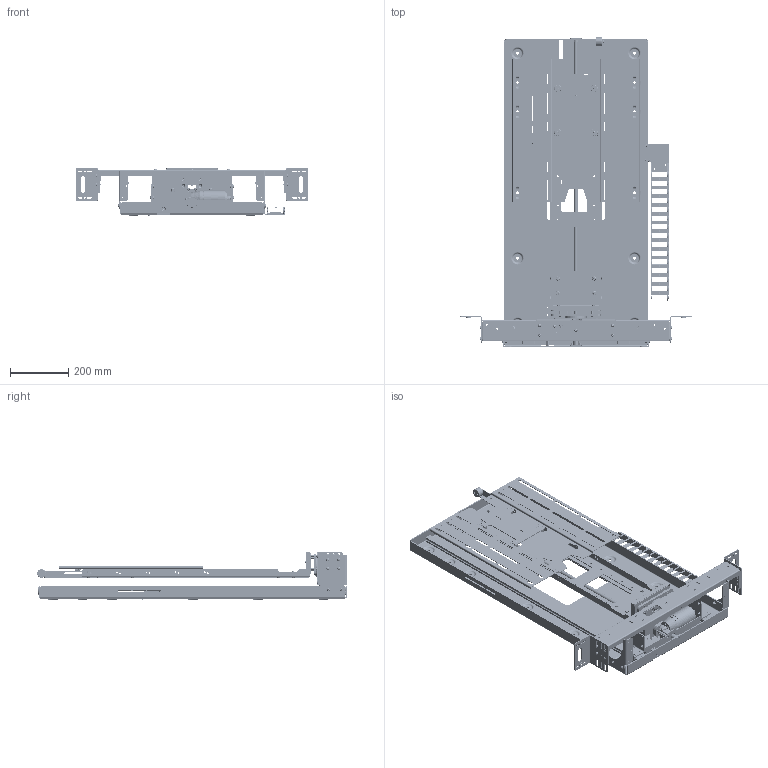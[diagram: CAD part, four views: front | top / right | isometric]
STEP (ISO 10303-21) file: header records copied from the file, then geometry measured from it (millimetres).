
FILE_DESCRIPTION (( 'STEP AP203' ), '1' );
FILE_NAME ('LSM-PF-7 IN.STEP', '2024-07-17T14:40:52', ( '' ), ( '' ), 'SwSTEP 2.0', 'SolidWorks 2023', '' );
FILE_SCHEMA (( 'CONFIG_CONTROL_DESIGN' ));
Length unit declared in the file: millimetre
Products named in the file (76): KH-003 CAM LEVER; ISO - 4032 - M4 - D - N_ISO - 4032 - M4 - D - N; ISO 10642 - M5 x 8 --- 8N_ISO 10642 - M5 x 8 --- 8N; LSM V4-401 BACK PLATE PUNCH_H1060; KH-205 BOSS SPACER_15MM; ALM675 Roller Pin; ISO 4762 M5 x 8 --- 8N_ISO 4762 M5 x 8 --- 8N; ALM675 Roller; ISO 4762 M6 x 40 - 24N_ISO 4762 M6 x 40 - 24N; Washer ISO 7089 - 6_Washer ISO 7089 - 6; ISO 4017 - M6 x 16-N_ISO 4017 - M6 x 16-N; LSM V4-003 FOOT RIGHT; ISO 7380 - M4 x 8 - 8N_ISO 7380 - M4 x 8 - 8N; Hexagon Nut ISO - 4033 - M6 - D - N_Hexagon Nut ISO - 4033 - M6 - D - N; ISO 7380 - M6 x 20 - 20N_ISO 7380 - M6 x 20 - 20N; ISO 7380 - M5 x 12 --- 12N_ISO 7380 - M5 x 12 --- 12N; 0077-007 SAIA-BURGESS SEALED MICROSWITCH_OPERATING; 0033-014 60mm TRACK END M_Z14.4.1PZ; ISO 10642 - M6 x 12 --- 12N_ISO 10642 - M6 x 12 --- 12N; LSL-028 PUSH BAR_DEFAULT; SWITCH HOUSING LANDING BOARD; LSM V4-006 BLOCK BRACKET; LSM V4-251 LEAD SCREW BOTTOM BUSH; LSM V4-220 H-19 KH MOUNT DISC; LSM21-410-BP BEAM FRONT; LSM Igus Bracket_V2; ISO 10642 - M4 x 12 - 12C_ISO 10642 - M4 x 12 - 12C; LSM21-415-BP BEAM_Default (LATEST VERSION); LSM V4-002 FOOT LEFT; ISO 4762 M6 x 30 - 30N_ISO 4762 M6 x 30 - 30N; KH-445-BP PUSH FLAP EXTENSION_H780; LSM21-404-BP LIFT MOUNT_780 ; ISO - 4032 - M5 - D - N_ISO - 4032 - M5 - D - N; LSM21-201-MS COVER BOSS_DEFAULT; ISO 7380 - M6 x 10 --- 10N_ISO 7380 - M6 x 10 --- 10N; M4X20mm HEX SPACER; LSM21-004-BP UPRIGHT FOOT; LSM V4-057 BLANK SWITCH CARRIER; ISO 7380 - M5 x 10 --- 10N_ISO 7380 - M5 x 10 --- 10N; Washer ISO 7089 - 6BZP_Washer ISO 7089 - 6BZP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
Assembly tree (221 placements, depth 2):
  LSM-PF-7 IN
    LSM V4-401 BACK PLATE PUNCH_H1060
    LSM V4-202 LINEAR GUIDE_H1060  x2
    LSM Igus Bracket_V2
    0033-014 60mm TRACK END M_Z14.4.1PZ
    LSM V4-211 LEAD SCREW_H1060
    LSM21-415-BP BEAM_Default (LATEST VERSION)
    0066-073 KETTERER 511356 MOTOR
    0044-002 HGH20CA-ZO BLOCK_804-1131  x2
    LSM21-410-BP BEAM FRONT
    LSM V4-006 BLOCK BRACKET
    0077-007 SAIA-BURGESS SEALED MICROSWITCH_OPERATING  x2
    M6 Hex Post_20
    0033-013 60mm TRACK LINK_Z14.4.028.0  x15
    LSM V4-002 FOOT LEFT
    LSM V4-003 FOOT RIGHT
    LSM V4-252 LEAD SCREW TOP BUSH
    LSM V4-251 LEAD SCREW BOTTOM BUSH
    LSL-028 PUSH BAR_DEFAULT
    ALM675 Roller Pin
    ALM675 Roller
    LSM V4-057 BLANK SWITCH CARRIER  x2
    KH-445-BP PUSH FLAP EXTENSION_H780
    LSM V4-245 TOP MOTOR BOSS
    SWITCH HOUSING LANDING BOARD
    LSM21-409-BP MOUNT DISC PLATE
    LSM21-448-MS SWITCH HOUSING 
    LSM21-004-BP UPRIGHT FOOT
    LSM21-201-MS COVER BOSS_DEFAULT  x2
    LSM21-403-BP SWIVEL COVER_FOLDED
    LSM21-404-BP LIFT MOUNT_780 
    LSM V4-220 H-19 KH MOUNT DISC
    LSM21-005-BP LOWER PLATE_FOLDED
    KH-001 MOUNT PLATE_V400
    KH-204 CAM BOSS
    KH-205 BOSS SPACER_15MM  x4
    KH-002 MOUNT LOCK PLATE_Cam
    KH-206 SCREEN MOUNT BOSS  x4
    KH-003 CAM LEVER
    M4X20mm HEX SPACER  x2
    LSM V4-007 BLOCK BRACKET MIRROR
    ISO 7380 - M6 x 12 --- 12N_ISO 7380 - M6 x 12 --- 12N  x12
    Hexagon Flange Nut ISO - 4161 - M6 - N_Hexagon Flange Nut ISO - 4161 - M6 - N  x4
    ISO 10642 - M5 x 8 --- 8N_ISO 10642 - M5 x 8 --- 8N  x2
    ISO 4762 M5 x 8 --- 8N_ISO 4762 M5 x 8 --- 8N  x2
    ISO 7380 - M5 x 10 --- 10N_ISO 7380 - M5 x 10 --- 10N  x2
    ISO 7380 - M6 x 10 --- 10N_ISO 7380 - M6 x 10 --- 10N  x18
    ISO 4017 - M6 x 16-N_ISO 4017 - M6 x 16-N
    ISO 10642 - M6 x 12 --- 12N_ISO 10642 - M6 x 12 --- 12N
    Hexagon Nut ISO - 4033 - M6 - D - N_Hexagon Nut ISO - 4033 - M6 - D - N
    ISO 7380 - M5 x 12 --- 12N_ISO 7380 - M5 x 12 --- 12N  x8
    ISO 4762 M5 x 50 - 22N_ISO 4762 M5 x 50 - 22N  x2
    ISO 10642 - M4 x 12 - 12C_ISO 10642 - M4 x 12 - 12C  x3
    ISO 7380 - M5 x 12 - 12N_ISO 7380 - M5 x 12 - 12N  x3
    Washer ISO 7089 - 5_Washer ISO 7089 - 5  x2
    ISO - 4032 - M5 - D - N_ISO - 4032 - M5 - D - N  x2
    ISO 7380 - M6 x 16 - 16N_ISO 7380 - M6 x 16 - 16N  x4
    Washer ISO 7089 - 6_Washer ISO 7089 - 6  x12
    ISO - 4034 - M6 - N_ISO - 4034 - M6 - N  x4
    ISO - 4161 - M6 - N_ISO - 4161 - M6 - N  x4
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Bounding box: 795 x 1060 x 166 mm (x, y, z)
Volume: 5453680.7 mm3; surface area: 3197404.9 mm2
Topology: 220 solids, 253 shells, 7648 faces, 18978 edges, 12074 vertices
Faces by surface type: plane 4439, cylinder 1956, cone 655, bspline 329, torus 199, sphere 70
Full cylindrical faces by diameter (mm): 1.5 x25, 2 x9, 2.55 x4, 2.6 x6, 2.8 x2, 3 x12, 3.3 x5, 3.5 x2, 3.82 x1, 4 x19, 4.2 x22, 4.25 x2, 4.3 x4, 4.5 x4, 4.65 x9, 5 x77, 5.1 x4, 5.2 x2, 5.3 x4, 5.415 x2, 5.5 x6, 5.55 x46, 6 x133, 6.08 x1, 6.2 x86, 6.3 x8, 6.4 x37, 6.5 x10, 6.6 x10, 6.8 x2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
Entity records: 179833 total; most frequent: CARTESIAN_POINT 68386, DIRECTION 20192, ORIENTED_EDGE 19498, EDGE_CURVE 9797, AXIS2_PLACEMENT_3D 7388, VERTEX_POINT 6668, EDGE_LOOP 6072, LINE 5416
